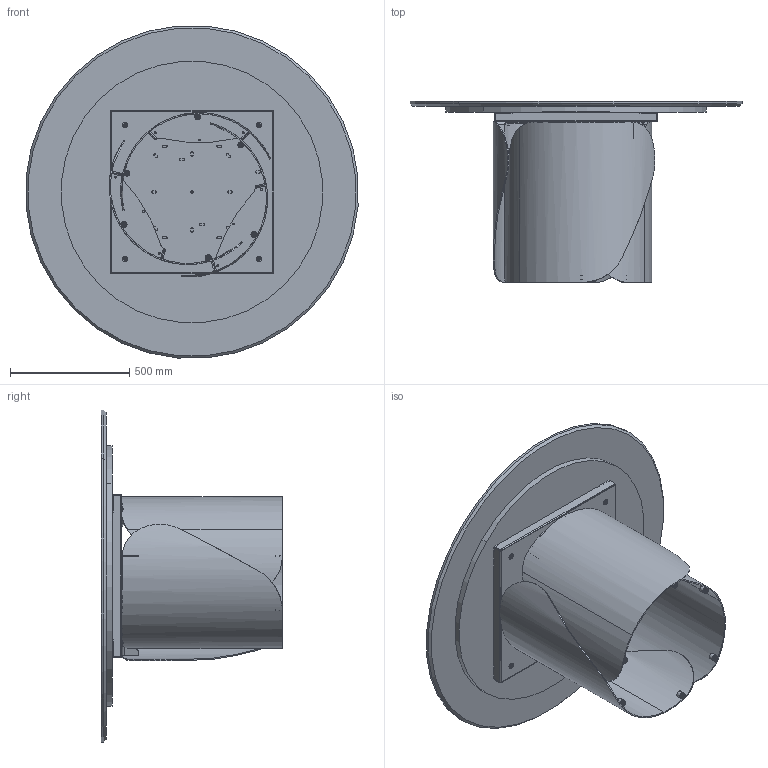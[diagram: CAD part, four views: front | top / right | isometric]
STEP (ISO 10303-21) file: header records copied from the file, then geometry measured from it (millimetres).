
FILE_DESCRIPTION (( 'STEP AP203' ), '1' );
FILE_NAME ('ON06M.STEP', '2024-08-06T13:29:48', ( '' ), ( '' ), 'SwSTEP 2.0', 'SolidWorks 2022', '' );
FILE_SCHEMA (( 'CONFIG_CONTROL_DESIGN' ));
Length unit declared in the file: millimetre
Products named in the file (17): M0XMXX-00-Piani Rotondi in marmo 2024_1400; OND000000_02-00-CILINDRO DI FISSAGGIO Ø25X17 M8; PIEDINO PER ONDA; COLLO TELAIO UNIVERSALE TTAV0801 CON FERRAMENTA_MTG TOP LEGNO-MARMO-KING; COLLO BASE ONDA SINGOLA CON FERRAMENTA; TTAV0801-02-TELAIO UNIVERSALE TONDO-VASSOIO; OND000000_01-00-PIASTRA SUPERIORE BASE ONDA; M8xXXmm_M8x55mm; TRU0000X-00-SOTTO PIANO D.XXXXmm_TRU00002 D.110cm ; M8xXXmm_M8x20mm; OND000000_03-00-LAMIERA CURVATA PRINCIPALE_OND00000X-00-ONDA BASE GREZZA PROTOTIPO; M0X-00- D. piani marmo_D.1400; TTAV0801-02-TELAIO UNIVERSALE TONDO; TTAV0801 TELAIO UNIVERSALE TONDO-PIASTRINA; rondella M8_8X24; OND000000-03-ONDA BASE GREZZA; ON06M
Assembly tree (52 placements, depth 4):
  ON06M
    COLLO TELAIO UNIVERSALE TTAV0801 CON FERRAMENTA_MTG TOP LEGNO-MARMO-KING
      TTAV0801-02-TELAIO UNIVERSALE TONDO
        TTAV0801-02-TELAIO UNIVERSALE TONDO-VASSOIO
        TTAV0801 TELAIO UNIVERSALE TONDO-PIASTRINA  x4
      rondella M8_8X24  x4
      M8xXXmm_M8x55mm  x4
    COLLO BASE ONDA SINGOLA CON FERRAMENTA  x3
      OND000000-03-ONDA BASE GREZZA
        OND000000_03-00-LAMIERA CURVATA PRINCIPALE_OND00000X-00-ONDA BASE GREZZA PROTOTIPO
        OND000000_01-00-PIASTRA SUPERIORE BASE ONDA
        OND000000_02-00-CILINDRO DI FISSAGGIO Ø25X17 M8  x2
      PIEDINO PER ONDA
    rondella M8_8X24  x12
    M8xXXmm_M8x20mm  x12
    M0XMXX-00-Piani Rotondi in marmo 2024_1400
      M0X-00- D. piani marmo_D.1400
      TRU0000X-00-SOTTO PIANO D.XXXXmm_TRU00002 D.110cm 
Bounding box: 1394.67 x 761 x 1394.67 mm (x, y, z)
Volume: 65087499.9 mm3; surface area: 9769362.9 mm2
Topology: 63 solids, 63 shells, 1715 faces, 4041 edges, 2479 vertices
Faces by surface type: plane 676, cylinder 573, torus 216, cone 190, bspline 60
Entity records: 21089 total; most frequent: CARTESIAN_POINT 4813, DIRECTION 2908, ORIENTED_EDGE 2752, EDGE_CURVE 1376, AXIS2_PLACEMENT_3D 1072, VERTEX_POINT 881, VECTOR 764, LINE 764
